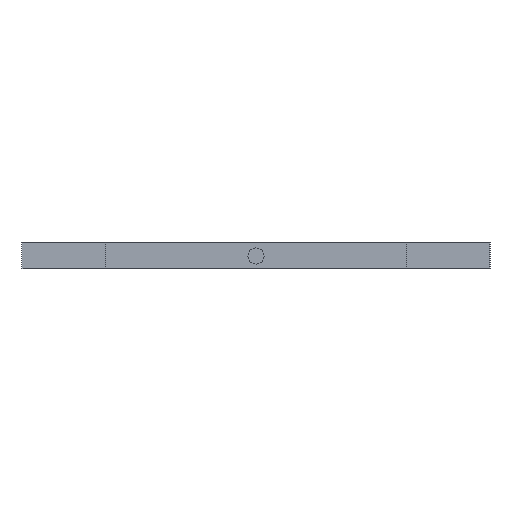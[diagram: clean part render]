
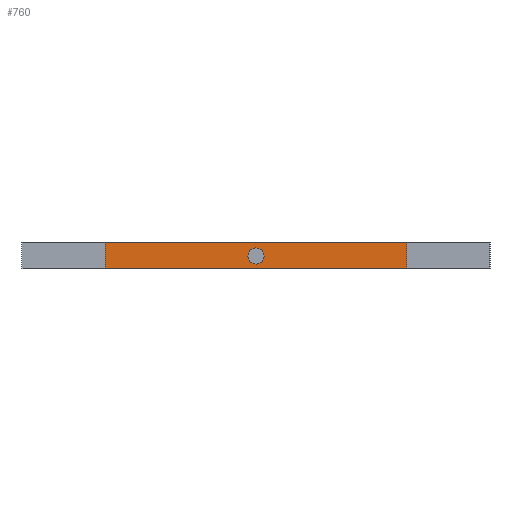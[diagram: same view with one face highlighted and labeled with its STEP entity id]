
A CAD part, left-side view. The second image highlights one B-rep face of the part: STEP entity #760.
In plain terms, the highlighted planar face has unit normal (-1, 0, 0).
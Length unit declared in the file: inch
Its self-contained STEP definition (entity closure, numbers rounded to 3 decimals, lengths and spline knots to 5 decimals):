
#40 = DIRECTION ( 'NONE',  ( 0., 0., 1. ) ) ;
#42 = ORIENTED_EDGE ( 'NONE', *, *, #750, .F. ) ;
#57 = ORIENTED_EDGE ( 'NONE', *, *, #591, .T. ) ;
#84 = LINE ( 'NONE', #771, #1000 ) ;
#100 = CARTESIAN_POINT ( 'NONE',  ( -0.25, -0.8, 0. ) ) ;
#112 = VECTOR ( 'NONE', #1075, 39.37008 ) ;
#194 = ORIENTED_EDGE ( 'NONE', *, *, #896, .T. ) ;
#209 = VECTOR ( 'NONE', #472, 39.37008 ) ;
#212 = DIRECTION ( 'NONE',  ( 0., 0., -1. ) ) ;
#214 = ORIENTED_EDGE ( 'NONE', *, *, #399, .T. ) ;
#219 = FACE_OUTER_BOUND ( 'NONE', #686, .T. ) ;
#228 = LINE ( 'NONE', #875, #209 ) ;
#258 = DIRECTION ( 'NONE',  ( 0., -1., 0. ) ) ;
#262 = EDGE_CURVE ( 'NONE', #394, #806, #1015, .T. ) ;
#263 = EDGE_CURVE ( 'NONE', #501, #1096, #228, .T. ) ;
#296 = DIRECTION ( 'NONE',  ( 1., 0., 0. ) ) ;
#300 = CARTESIAN_POINT ( 'NONE',  ( -0.25, -0.8, 0.25 ) ) ;
#318 = FACE_BOUND ( 'NONE', #1092, .T. ) ;
#333 = DIRECTION ( 'NONE',  ( 1., 0., 0. ) ) ;
#339 = VECTOR ( 'NONE', #212, 39.37008 ) ;
#373 = CIRCLE ( 'NONE', #1087, 0.07717 ) ;
#384 = CARTESIAN_POINT ( 'NONE',  ( -0.25, -2.25, 0.125 ) ) ;
#394 = VERTEX_POINT ( 'NONE', #867 ) ;
#399 = EDGE_CURVE ( 'NONE', #736, #920, #84, .T. ) ;
#403 = CARTESIAN_POINT ( 'NONE',  ( -0.25, -0.8, 0.25 ) ) ;
#404 = ORIENTED_EDGE ( 'NONE', *, *, #263, .F. ) ;
#450 = DIRECTION ( 'NONE',  ( 0., 0., -1. ) ) ;
#467 = AXIS2_PLACEMENT_3D ( 'NONE', #474, #296, #40 ) ;
#472 = DIRECTION ( 'NONE',  ( 0., -1., 0. ) ) ;
#474 = CARTESIAN_POINT ( 'NONE',  ( -0.25, 0., 0. ) ) ;
#501 = VERTEX_POINT ( 'NONE', #300 ) ;
#572 = AXIS2_PLACEMENT_3D ( 'NONE', #384, #1048, #651 ) ;
#591 = EDGE_CURVE ( 'NONE', #806, #394, #373, .T. ) ;
#631 = LINE ( 'NONE', #971, #339 ) ;
#651 = DIRECTION ( 'NONE',  ( 0., 0., -1. ) ) ;
#659 = CARTESIAN_POINT ( 'NONE',  ( -0.25, -3.7, 0. ) ) ;
#686 = EDGE_LOOP ( 'NONE', ( #194, #214, #42, #404 ) ) ;
#736 = VERTEX_POINT ( 'NONE', #100 ) ;
#747 = CARTESIAN_POINT ( 'NONE',  ( -0.25, -3.7, 0.25 ) ) ;
#750 = EDGE_CURVE ( 'NONE', #1096, #920, #631, .T. ) ;
#760 = ADVANCED_FACE ( 'NONE', ( #318, #219 ), #903, .F. ) ;
#771 = CARTESIAN_POINT ( 'NONE',  ( -0.25, -0.8, 0. ) ) ;
#806 = VERTEX_POINT ( 'NONE', #815 ) ;
#815 = CARTESIAN_POINT ( 'NONE',  ( -0.25, -2.17283, 0.125 ) ) ;
#823 = LINE ( 'NONE', #403, #112 ) ;
#831 = CARTESIAN_POINT ( 'NONE',  ( -0.25, -2.25, 0.125 ) ) ;
#867 = CARTESIAN_POINT ( 'NONE',  ( -0.25, -2.32717, 0.125 ) ) ;
#875 = CARTESIAN_POINT ( 'NONE',  ( -0.25, -0.8, 0.25 ) ) ;
#896 = EDGE_CURVE ( 'NONE', #501, #736, #823, .T. ) ;
#903 = PLANE ( 'NONE',  #467 ) ;
#920 = VERTEX_POINT ( 'NONE', #659 ) ;
#971 = CARTESIAN_POINT ( 'NONE',  ( -0.25, -3.7, 0.25 ) ) ;
#1000 = VECTOR ( 'NONE', #258, 39.37008 ) ;
#1015 = CIRCLE ( 'NONE', #572, 0.07717 ) ;
#1048 = DIRECTION ( 'NONE',  ( 1., 0., 0. ) ) ;
#1061 = ORIENTED_EDGE ( 'NONE', *, *, #262, .T. ) ;
#1075 = DIRECTION ( 'NONE',  ( 0., 0., -1. ) ) ;
#1087 = AXIS2_PLACEMENT_3D ( 'NONE', #831, #333, #450 ) ;
#1092 = EDGE_LOOP ( 'NONE', ( #1061, #57 ) ) ;
#1096 = VERTEX_POINT ( 'NONE', #747 ) ;
